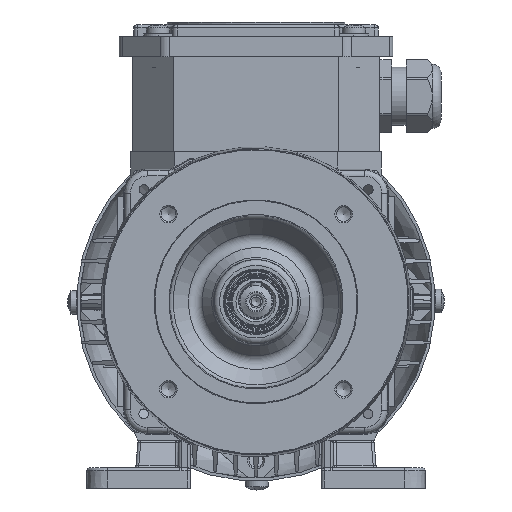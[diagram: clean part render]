
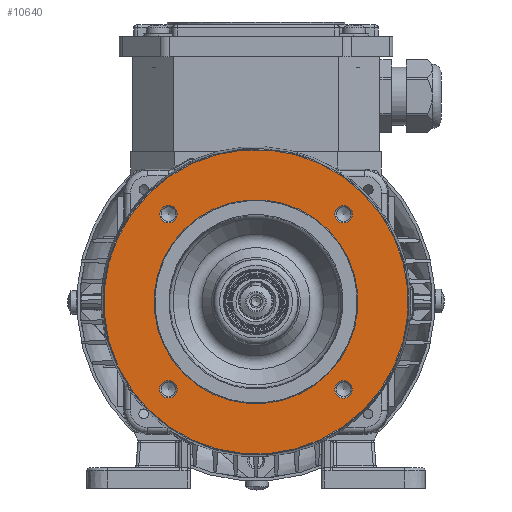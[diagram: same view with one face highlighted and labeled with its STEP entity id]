
A CAD part, front view. The second image highlights one B-rep face of the part: STEP entity #10640.
In plain terms, the highlighted planar face has unit normal (0, -1, 0).
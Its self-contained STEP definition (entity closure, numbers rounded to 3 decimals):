
#6204=FACE_BOUND('',#17807,.T.);
#6205=FACE_BOUND('',#17808,.T.);
#6206=FACE_BOUND('',#17809,.T.);
#6207=FACE_BOUND('',#17810,.T.);
#6208=FACE_BOUND('',#17811,.T.);
#6209=FACE_BOUND('',#17812,.T.);
#10640=ADVANCED_FACE('',(#6204,#6205,#6206,#6207,#6208,#6209),#12826,.T.);
#12826=PLANE('',#59183);
#17807=EDGE_LOOP('',(#28391));
#17808=EDGE_LOOP('',(#28392));
#17809=EDGE_LOOP('',(#28393));
#17810=EDGE_LOOP('',(#28394));
#17811=EDGE_LOOP('',(#28395));
#17812=EDGE_LOOP('',(#28396));
#28391=ORIENTED_EDGE('',*,*,#43373,.T.);
#28392=ORIENTED_EDGE('',*,*,#43374,.T.);
#28393=ORIENTED_EDGE('',*,*,#43375,.T.);
#28394=ORIENTED_EDGE('',*,*,#43376,.T.);
#28395=ORIENTED_EDGE('',*,*,#43377,.T.);
#28396=ORIENTED_EDGE('',*,*,#43378,.T.);
#37113=VERTEX_POINT('',#89443);
#37114=VERTEX_POINT('',#89445);
#37115=VERTEX_POINT('',#89447);
#37116=VERTEX_POINT('',#89449);
#37117=VERTEX_POINT('',#89451);
#37118=VERTEX_POINT('',#89453);
#43373=EDGE_CURVE('',#37113,#37113,#54190,.T.);
#43374=EDGE_CURVE('',#37114,#37114,#54191,.T.);
#43375=EDGE_CURVE('',#37115,#37115,#54192,.T.);
#43376=EDGE_CURVE('',#37116,#37116,#54193,.T.);
#43377=EDGE_CURVE('',#37117,#37117,#54194,.T.);
#43378=EDGE_CURVE('',#37118,#37118,#54195,.T.);
#54190=CIRCLE('',#59177,3.);
#54191=CIRCLE('',#59178,3.);
#54192=CIRCLE('',#59179,3.);
#54193=CIRCLE('',#59180,3.);
#54194=CIRCLE('',#59181,35.);
#54195=CIRCLE('',#59182,52.25);
#59177=AXIS2_PLACEMENT_3D('',#89442,#70143,#70144);
#59178=AXIS2_PLACEMENT_3D('',#89444,#70145,#70146);
#59179=AXIS2_PLACEMENT_3D('',#89446,#70147,#70148);
#59180=AXIS2_PLACEMENT_3D('',#89448,#70149,#70150);
#59181=AXIS2_PLACEMENT_3D('',#89450,#70151,#70152);
#59182=AXIS2_PLACEMENT_3D('',#89452,#70153,#70154);
#59183=AXIS2_PLACEMENT_3D('',#89454,#70155,#70156);
#70143=DIRECTION('',(0.,1.,0.));
#70144=DIRECTION('',(-0.707,0.,0.708));
#70145=DIRECTION('',(0.,1.,0.));
#70146=DIRECTION('',(-0.707,0.,0.708));
#70147=DIRECTION('',(0.,1.,0.));
#70148=DIRECTION('',(-0.707,0.,0.708));
#70149=DIRECTION('',(0.,1.,0.));
#70150=DIRECTION('',(-0.707,0.,0.708));
#70151=DIRECTION('',(0.,1.,0.));
#70152=DIRECTION('',(0.707,0.,-0.708));
#70153=DIRECTION('',(0.,-1.,0.));
#70154=DIRECTION('',(0.707,0.,-0.708));
#70155=DIRECTION('',(0.,-1.,0.));
#70156=DIRECTION('',(-0.707,0.,0.708));
#89442=CARTESIAN_POINT('',(-30.034,-42.5,30.07));
#89443=CARTESIAN_POINT('',(-32.154,-42.5,32.193));
#89444=CARTESIAN_POINT('',(-30.07,-42.5,-30.034));
#89445=CARTESIAN_POINT('',(-32.19,-42.5,-27.911));
#89446=CARTESIAN_POINT('',(30.034,-42.5,-30.07));
#89447=CARTESIAN_POINT('',(27.914,-42.5,-27.948));
#89448=CARTESIAN_POINT('',(30.07,-42.5,30.034));
#89449=CARTESIAN_POINT('',(27.95,-42.5,32.156));
#89450=CARTESIAN_POINT('',(0.,-42.5,0.));
#89451=CARTESIAN_POINT('',(24.734,-42.5,-24.764));
#89452=CARTESIAN_POINT('',(0.,-42.5,0.));
#89453=CARTESIAN_POINT('',(36.924,-42.5,-36.969));
#89454=CARTESIAN_POINT('',(0.,-42.5,0.));
